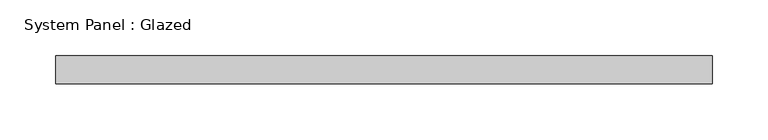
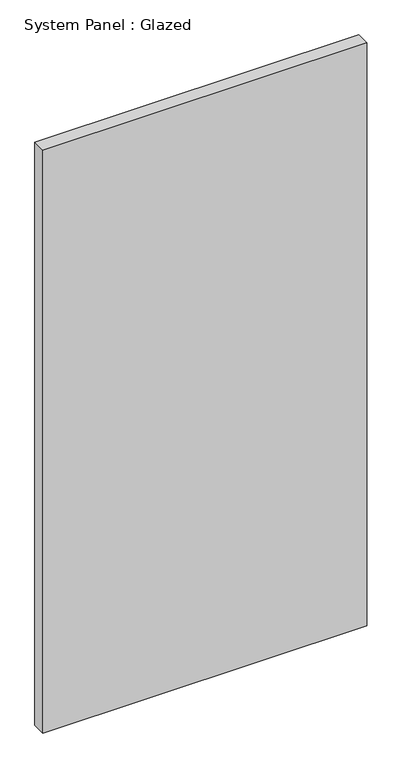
"""IFC4 building model written with IfcOpenShell, lengths in millimetres: plate geometry, System Panel : Glazed."""

from ifc_helpers import new_model, si_unit, origin, origin_with_axes, place, context, project, spatial, polyline, outline, extrude, source, transform, mapped, element, save


def system_panel_glazed_99a26212(model_context):
    return source(origin(), model_context, "Body", "SweptSolid", [
        extrude(outline(polyline([(295.275, -44.45), (-295.275, -44.45), (-295.275, -19.05), (295.275, -19.05), (295.275, -44.45)])), origin_with_axes(), (0.0, 0.0, 1.0), 1123.95),
    ])


if __name__ == "__main__":
    model = new_model("IFC4")
    model_context = context("Model", 3, world=origin())
    ifc_project = project(units=[si_unit("LENGTHUNIT", "METRE", prefix="MILLI")], contexts=[model_context])
    site = spatial("IfcSite", under=ifc_project)
    building = spatial("IfcBuilding", under=site)
    placement = place(None, origin())
    system_panel_glazed_shape = system_panel_glazed_99a26212(model_context)
    element("IfcPlate", 1, ObjectType="System Panel : Glazed", at=placement, inside=building, context=model_context, shape_type="MappedRepresentation", body=[
        mapped(system_panel_glazed_shape, transform((0.0, 0.0, 0.0), x_axis=(1.0, 0.0, 0.0), y_axis=(0.0, 1.0, 0.0), z_axis=(0.0, 0.0, 1.0))),
    ])
    save(model, "model.ifc")
